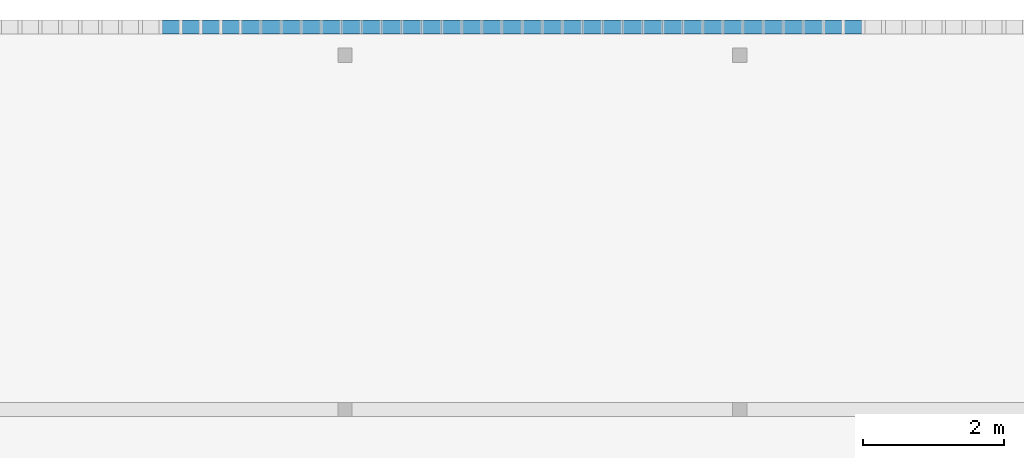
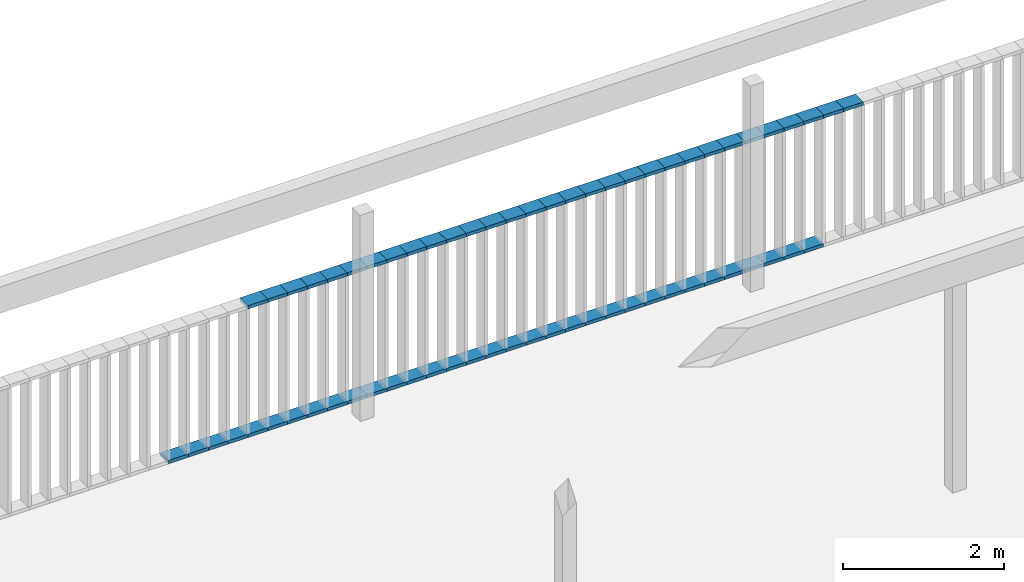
# One storey, part 53 of 240: 64 members, 1 element without a shape of its own.
"""IFC2X3 building model written with IfcOpenShell, lengths in centimetres."""

from ifc_helpers import new_model, entity, si_unit, converted_unit, derived_unit, direction, frame, origin, origin_2d_with_axis, place, context, subcontext, project, spatial, rectangle, extrude, source, transform, mapped, material, type_object, type_shapes, element, aggregate, save


model = new_model("IFC2X3")

# Units and contexts
model_context = context("Model", 3, precision=0.001, world=origin(), true_north=direction((6.12303176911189e-17, 1.0)))
body_context = subcontext(model_context, "Body", "Model", "MODEL_VIEW")
ifc_project = project(units=[si_unit("LENGTHUNIT", "METRE", prefix="CENTI"), si_unit("AREAUNIT", "SQUARE_METRE"), si_unit("VOLUMEUNIT", "CUBIC_METRE"), converted_unit("PLANEANGLEUNIT", "DEGREE", entity("IfcRatioMeasure", 0.0174532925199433), si_unit("PLANEANGLEUNIT", "RADIAN"), dimensions=[0, 0, 0, 0, 0, 0, 0]), si_unit("MASSUNIT", "GRAM", prefix="KILO"), derived_unit("MASSDENSITYUNIT", [(si_unit("MASSUNIT", "GRAM", prefix="KILO"), 1), (si_unit("LENGTHUNIT", "METRE"), -3)]), si_unit("TIMEUNIT", "SECOND"), si_unit("FREQUENCYUNIT", "HERTZ"), si_unit("THERMODYNAMICTEMPERATUREUNIT", "DEGREE_CELSIUS"), derived_unit("THERMALTRANSMITTANCEUNIT", [(si_unit("MASSUNIT", "GRAM", prefix="KILO"), 1), (si_unit("THERMODYNAMICTEMPERATUREUNIT", "KELVIN"), -1), (si_unit("TIMEUNIT", "SECOND"), -3)]), derived_unit("VOLUMETRICFLOWRATEUNIT", [(si_unit("LENGTHUNIT", "METRE"), 3), (si_unit("TIMEUNIT", "SECOND"), -1)]), si_unit("ELECTRICCURRENTUNIT", "AMPERE"), si_unit("ELECTRICVOLTAGEUNIT", "VOLT"), si_unit("POWERUNIT", "WATT"), si_unit("FORCEUNIT", "NEWTON", prefix="KILO"), si_unit("ILLUMINANCEUNIT", "LUX"), si_unit("LUMINOUSFLUXUNIT", "LUMEN"), si_unit("LUMINOUSINTENSITYUNIT", "CANDELA"), derived_unit("USERDEFINED", [(si_unit("MASSUNIT", "GRAM", prefix="KILO"), -1), (si_unit("LENGTHUNIT", "METRE"), -2), (si_unit("TIMEUNIT", "SECOND"), 3), (si_unit("LUMINOUSFLUXUNIT", "LUMEN"), 1)]), derived_unit("LINEARVELOCITYUNIT", [(si_unit("LENGTHUNIT", "METRE"), 1), (si_unit("TIMEUNIT", "SECOND"), -1)]), si_unit("PRESSUREUNIT", "PASCAL"), derived_unit("USERDEFINED", [(si_unit("LENGTHUNIT", "METRE"), -2), (si_unit("MASSUNIT", "GRAM", prefix="KILO"), 1), (si_unit("TIMEUNIT", "SECOND"), -2)])], contexts=[model_context])

# Site, building, storey
site_placement = place(None, frame((-2781.94577612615, 7442.24238424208, 0.0)))
site = spatial("IfcSite", under=ifc_project, at=site_placement, Name="Default", CompositionType="ELEMENT")
building_placement = place(site_placement, origin())
building = spatial("IfcBuilding", under=site, at=building_placement, CompositionType="ELEMENT")
storey_placement = place(building_placement, origin())
storey = spatial("IfcBuildingStorey", under=building, at=storey_placement, Name="N00 - COO", CompositionType="ELEMENT", Elevation=0.0)

# Curtain wall, members
curtain_wall_type = type_object("IfcCurtainWallType", Name="Mur-rideau:SR-Clôture", PredefinedType="NOTDEFINED")
curtain_wall_placement = place(building_placement, origin())
curtain_wall = element("IfcCurtainWall", 1, at=curtain_wall_placement, inside=storey, type_object=curtain_wall_type, Name="Mur-rideau:SR-Clôture", ObjectType="Mur-rideau:SR-Clôture")
ifc_material = material(Name="Aluminium")
member_type_1 = type_object("IfcMemberType", Name="Epine nord (200x50 mm)", PredefinedType="MEMBER")
shared_shape_1 = source(origin(), body_context, "Body", "SweptSolid", [
    extrude(rectangle(XDim=20.0, YDim=5.0, at=origin_2d_with_axis()), frame((-2.5, 0.0, -28.5000000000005), z_axis=(0.0, 0.0, 1.0), x_axis=(0.0, -1.0, 0.0)), (0.0, 0.0, 1.0), 28.5000000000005),
])
type_shapes(member_type_1, [shared_shape_1])
member_1_placement = place(building_placement, frame((-2629.49987965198, 40.0, 200.0), z_axis=(1.0, 0.0, 0.0), x_axis=(0.0, 0.0, 1.0)))
member_1 = element("IfcMember", 2, at=member_1_placement, type_object=member_type_1, material=ifc_material, Name="Meneau rectangulaire:Epine nord (200x50 mm)", ObjectType="Meneau rectangulaire:Epine nord (200x50 mm)", context=body_context, shape_type="MappedRepresentation", body=[
    mapped(shared_shape_1, transform((0.0, 0.0, 0.0), scale=1.0)),
])
member_2_placement = place(building_placement, frame((-2600.99987965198, 40.0, 200.0), z_axis=(1.0, 0.0, 0.0), x_axis=(0.0, 0.0, 1.0)))
member_2 = element("IfcMember", 3, at=member_2_placement, type_object=member_type_1, material=ifc_material, Name="Meneau rectangulaire:Epine nord (200x50 mm)", ObjectType="Meneau rectangulaire:Epine nord (200x50 mm)", context=body_context, shape_type="MappedRepresentation", body=[
    mapped(shared_shape_1, transform((0.0, 0.0, 0.0), scale=1.0)),
])
member_3_placement = place(building_placement, frame((-2572.49987965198, 40.0, 200.0), z_axis=(1.0, 0.0, 0.0), x_axis=(0.0, 0.0, 1.0)))
member_3 = element("IfcMember", 4, at=member_3_placement, type_object=member_type_1, material=ifc_material, Name="Meneau rectangulaire:Epine nord (200x50 mm)", ObjectType="Meneau rectangulaire:Epine nord (200x50 mm)", context=body_context, shape_type="MappedRepresentation", body=[
    mapped(shared_shape_1, transform((0.0, 0.0, 0.0), scale=1.0)),
])
member_4_placement = place(building_placement, frame((-2543.99987965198, 40.0, 200.0), z_axis=(1.0, 0.0, 0.0), x_axis=(0.0, 0.0, 1.0)))
member_4 = element("IfcMember", 5, at=member_4_placement, type_object=member_type_1, material=ifc_material, Name="Meneau rectangulaire:Epine nord (200x50 mm)", ObjectType="Meneau rectangulaire:Epine nord (200x50 mm)", context=body_context, shape_type="MappedRepresentation", body=[
    mapped(shared_shape_1, transform((0.0, 0.0, 0.0), scale=1.0)),
])
member_5_placement = place(building_placement, frame((-2515.49987965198, 40.0, 200.0), z_axis=(1.0, 0.0, 0.0), x_axis=(0.0, 0.0, 1.0)))
member_5 = element("IfcMember", 6, at=member_5_placement, type_object=member_type_1, material=ifc_material, Name="Meneau rectangulaire:Epine nord (200x50 mm)", ObjectType="Meneau rectangulaire:Epine nord (200x50 mm)", context=body_context, shape_type="MappedRepresentation", body=[
    mapped(shared_shape_1, transform((0.0, 0.0, 0.0), scale=1.0)),
])
member_6_placement = place(building_placement, frame((-2486.99987965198, 40.0, 200.0), z_axis=(1.0, 0.0, 0.0), x_axis=(0.0, 0.0, 1.0)))
member_6 = element("IfcMember", 7, at=member_6_placement, type_object=member_type_1, material=ifc_material, Name="Meneau rectangulaire:Epine nord (200x50 mm)", ObjectType="Meneau rectangulaire:Epine nord (200x50 mm)", context=body_context, shape_type="MappedRepresentation", body=[
    mapped(shared_shape_1, transform((0.0, 0.0, 0.0), scale=1.0)),
])
member_7_placement = place(building_placement, frame((-2458.49987965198, 40.0, 200.0), z_axis=(1.0, 0.0, 0.0), x_axis=(0.0, 0.0, 1.0)))
member_7 = element("IfcMember", 8, at=member_7_placement, type_object=member_type_1, material=ifc_material, Name="Meneau rectangulaire:Epine nord (200x50 mm)", ObjectType="Meneau rectangulaire:Epine nord (200x50 mm)", context=body_context, shape_type="MappedRepresentation", body=[
    mapped(shared_shape_1, transform((0.0, 0.0, 0.0), scale=1.0)),
])
member_8_placement = place(building_placement, frame((-2429.99987965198, 40.0, 200.0), z_axis=(1.0, 0.0, 0.0), x_axis=(0.0, 0.0, 1.0)))
member_8 = element("IfcMember", 9, at=member_8_placement, type_object=member_type_1, material=ifc_material, Name="Meneau rectangulaire:Epine nord (200x50 mm)", ObjectType="Meneau rectangulaire:Epine nord (200x50 mm)", context=body_context, shape_type="MappedRepresentation", body=[
    mapped(shared_shape_1, transform((0.0, 0.0, 0.0), scale=1.0)),
])
member_9_placement = place(building_placement, frame((-2401.49987965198, 40.0, 200.0), z_axis=(1.0, 0.0, 0.0), x_axis=(0.0, 0.0, 1.0)))
member_9 = element("IfcMember", 10, at=member_9_placement, type_object=member_type_1, material=ifc_material, Name="Meneau rectangulaire:Epine nord (200x50 mm)", ObjectType="Meneau rectangulaire:Epine nord (200x50 mm)", context=body_context, shape_type="MappedRepresentation", body=[
    mapped(shared_shape_1, transform((0.0, 0.0, 0.0), scale=1.0)),
])
member_10_placement = place(building_placement, frame((-2372.99987965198, 40.0, 200.0), z_axis=(1.0, 0.0, 0.0), x_axis=(0.0, 0.0, 1.0)))
member_10 = element("IfcMember", 11, at=member_10_placement, type_object=member_type_1, material=ifc_material, Name="Meneau rectangulaire:Epine nord (200x50 mm)", ObjectType="Meneau rectangulaire:Epine nord (200x50 mm)", context=body_context, shape_type="MappedRepresentation", body=[
    mapped(shared_shape_1, transform((0.0, 0.0, 0.0), scale=1.0)),
])
member_11_placement = place(building_placement, frame((-2344.49987965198, 40.0, 200.0), z_axis=(1.0, 0.0, 0.0), x_axis=(0.0, 0.0, 1.0)))
member_11 = element("IfcMember", 12, at=member_11_placement, type_object=member_type_1, material=ifc_material, Name="Meneau rectangulaire:Epine nord (200x50 mm)", ObjectType="Meneau rectangulaire:Epine nord (200x50 mm)", context=body_context, shape_type="MappedRepresentation", body=[
    mapped(shared_shape_1, transform((0.0, 0.0, 0.0), scale=1.0)),
])
member_12_placement = place(building_placement, frame((-2315.99987965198, 40.0, 200.0), z_axis=(1.0, 0.0, 0.0), x_axis=(0.0, 0.0, 1.0)))
member_12 = element("IfcMember", 13, at=member_12_placement, type_object=member_type_1, material=ifc_material, Name="Meneau rectangulaire:Epine nord (200x50 mm)", ObjectType="Meneau rectangulaire:Epine nord (200x50 mm)", context=body_context, shape_type="MappedRepresentation", body=[
    mapped(shared_shape_1, transform((0.0, 0.0, 0.0), scale=1.0)),
])
member_13_placement = place(building_placement, frame((-2287.49987965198, 40.0, 200.0), z_axis=(1.0, 0.0, 0.0), x_axis=(0.0, 0.0, 1.0)))
member_13 = element("IfcMember", 14, at=member_13_placement, type_object=member_type_1, material=ifc_material, Name="Meneau rectangulaire:Epine nord (200x50 mm)", ObjectType="Meneau rectangulaire:Epine nord (200x50 mm)", context=body_context, shape_type="MappedRepresentation", body=[
    mapped(shared_shape_1, transform((0.0, 0.0, 0.0), scale=1.0)),
])
member_14_placement = place(building_placement, frame((-2258.99987965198, 40.0, 200.0), z_axis=(1.0, 0.0, 0.0), x_axis=(0.0, 0.0, 1.0)))
member_14 = element("IfcMember", 15, at=member_14_placement, type_object=member_type_1, material=ifc_material, Name="Meneau rectangulaire:Epine nord (200x50 mm)", ObjectType="Meneau rectangulaire:Epine nord (200x50 mm)", context=body_context, shape_type="MappedRepresentation", body=[
    mapped(shared_shape_1, transform((0.0, 0.0, 0.0), scale=1.0)),
])
member_15_placement = place(building_placement, frame((-2230.49987965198, 40.0, 200.0), z_axis=(1.0, 0.0, 0.0), x_axis=(0.0, 0.0, 1.0)))
member_15 = element("IfcMember", 16, at=member_15_placement, type_object=member_type_1, material=ifc_material, Name="Meneau rectangulaire:Epine nord (200x50 mm)", ObjectType="Meneau rectangulaire:Epine nord (200x50 mm)", context=body_context, shape_type="MappedRepresentation", body=[
    mapped(shared_shape_1, transform((0.0, 0.0, 0.0), scale=1.0)),
])
member_16_placement = place(building_placement, frame((-2201.99987965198, 40.0, 200.0), z_axis=(1.0, 0.0, 0.0), x_axis=(0.0, 0.0, 1.0)))
member_16 = element("IfcMember", 17, at=member_16_placement, type_object=member_type_1, material=ifc_material, Name="Meneau rectangulaire:Epine nord (200x50 mm)", ObjectType="Meneau rectangulaire:Epine nord (200x50 mm)", context=body_context, shape_type="MappedRepresentation", body=[
    mapped(shared_shape_1, transform((0.0, 0.0, 0.0), scale=1.0)),
])
member_17_placement = place(building_placement, frame((-2173.49987965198, 40.0, 200.0), z_axis=(1.0, 0.0, 0.0), x_axis=(0.0, 0.0, 1.0)))
member_17 = element("IfcMember", 18, at=member_17_placement, type_object=member_type_1, material=ifc_material, Name="Meneau rectangulaire:Epine nord (200x50 mm)", ObjectType="Meneau rectangulaire:Epine nord (200x50 mm)", context=body_context, shape_type="MappedRepresentation", body=[
    mapped(shared_shape_1, transform((0.0, 0.0, 0.0), scale=1.0)),
])
member_18_placement = place(building_placement, frame((-2144.99987965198, 40.0, 200.0), z_axis=(1.0, 0.0, 0.0), x_axis=(0.0, 0.0, 1.0)))
member_18 = element("IfcMember", 19, at=member_18_placement, type_object=member_type_1, material=ifc_material, Name="Meneau rectangulaire:Epine nord (200x50 mm)", ObjectType="Meneau rectangulaire:Epine nord (200x50 mm)", context=body_context, shape_type="MappedRepresentation", body=[
    mapped(shared_shape_1, transform((0.0, 0.0, 0.0), scale=1.0)),
])
member_19_placement = place(building_placement, frame((-2116.49987965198, 40.0, 200.0), z_axis=(1.0, 0.0, 0.0), x_axis=(0.0, 0.0, 1.0)))
member_19 = element("IfcMember", 20, at=member_19_placement, type_object=member_type_1, material=ifc_material, Name="Meneau rectangulaire:Epine nord (200x50 mm)", ObjectType="Meneau rectangulaire:Epine nord (200x50 mm)", context=body_context, shape_type="MappedRepresentation", body=[
    mapped(shared_shape_1, transform((0.0, 0.0, 0.0), scale=1.0)),
])
member_20_placement = place(building_placement, frame((-2087.99987965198, 40.0, 200.0), z_axis=(1.0, 0.0, 0.0), x_axis=(0.0, 0.0, 1.0)))
member_20 = element("IfcMember", 21, at=member_20_placement, type_object=member_type_1, material=ifc_material, Name="Meneau rectangulaire:Epine nord (200x50 mm)", ObjectType="Meneau rectangulaire:Epine nord (200x50 mm)", context=body_context, shape_type="MappedRepresentation", body=[
    mapped(shared_shape_1, transform((0.0, 0.0, 0.0), scale=1.0)),
])
member_21_placement = place(building_placement, frame((-2059.49987965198, 40.0, 200.0), z_axis=(1.0, 0.0, 0.0), x_axis=(0.0, 0.0, 1.0)))
member_21 = element("IfcMember", 22, at=member_21_placement, type_object=member_type_1, material=ifc_material, Name="Meneau rectangulaire:Epine nord (200x50 mm)", ObjectType="Meneau rectangulaire:Epine nord (200x50 mm)", context=body_context, shape_type="MappedRepresentation", body=[
    mapped(shared_shape_1, transform((0.0, 0.0, 0.0), scale=1.0)),
])
member_22_placement = place(building_placement, frame((-2030.99987965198, 40.0, 200.0), z_axis=(1.0, 0.0, 0.0), x_axis=(0.0, 0.0, 1.0)))
member_22 = element("IfcMember", 23, at=member_22_placement, type_object=member_type_1, material=ifc_material, Name="Meneau rectangulaire:Epine nord (200x50 mm)", ObjectType="Meneau rectangulaire:Epine nord (200x50 mm)", context=body_context, shape_type="MappedRepresentation", body=[
    mapped(shared_shape_1, transform((0.0, 0.0, 0.0), scale=1.0)),
])
member_23_placement = place(building_placement, frame((-2002.49987965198, 40.0, 200.0), z_axis=(1.0, 0.0, 0.0), x_axis=(0.0, 0.0, 1.0)))
member_23 = element("IfcMember", 24, at=member_23_placement, type_object=member_type_1, material=ifc_material, Name="Meneau rectangulaire:Epine nord (200x50 mm)", ObjectType="Meneau rectangulaire:Epine nord (200x50 mm)", context=body_context, shape_type="MappedRepresentation", body=[
    mapped(shared_shape_1, transform((0.0, 0.0, 0.0), scale=1.0)),
])
member_24_placement = place(building_placement, frame((-1973.99987965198, 40.0, 200.0), z_axis=(1.0, 0.0, 0.0), x_axis=(0.0, 0.0, 1.0)))
member_24 = element("IfcMember", 25, at=member_24_placement, type_object=member_type_1, material=ifc_material, Name="Meneau rectangulaire:Epine nord (200x50 mm)", ObjectType="Meneau rectangulaire:Epine nord (200x50 mm)", context=body_context, shape_type="MappedRepresentation", body=[
    mapped(shared_shape_1, transform((0.0, 0.0, 0.0), scale=1.0)),
])
member_25_placement = place(building_placement, frame((-1945.49987965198, 40.0, 200.0), z_axis=(1.0, 0.0, 0.0), x_axis=(0.0, 0.0, 1.0)))
member_25 = element("IfcMember", 26, at=member_25_placement, type_object=member_type_1, material=ifc_material, Name="Meneau rectangulaire:Epine nord (200x50 mm)", ObjectType="Meneau rectangulaire:Epine nord (200x50 mm)", context=body_context, shape_type="MappedRepresentation", body=[
    mapped(shared_shape_1, transform((0.0, 0.0, 0.0), scale=1.0)),
])
member_26_placement = place(building_placement, frame((-1916.99987965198, 40.0, 200.0), z_axis=(1.0, 0.0, 0.0), x_axis=(0.0, 0.0, 1.0)))
member_26 = element("IfcMember", 27, at=member_26_placement, type_object=member_type_1, material=ifc_material, Name="Meneau rectangulaire:Epine nord (200x50 mm)", ObjectType="Meneau rectangulaire:Epine nord (200x50 mm)", context=body_context, shape_type="MappedRepresentation", body=[
    mapped(shared_shape_1, transform((0.0, 0.0, 0.0), scale=1.0)),
])
member_27_placement = place(building_placement, frame((-1888.49987965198, 40.0, 200.0), z_axis=(1.0, 0.0, 0.0), x_axis=(0.0, 0.0, 1.0)))
member_27 = element("IfcMember", 28, at=member_27_placement, type_object=member_type_1, material=ifc_material, Name="Meneau rectangulaire:Epine nord (200x50 mm)", ObjectType="Meneau rectangulaire:Epine nord (200x50 mm)", context=body_context, shape_type="MappedRepresentation", body=[
    mapped(shared_shape_1, transform((0.0, 0.0, 0.0), scale=1.0)),
])
member_28_placement = place(building_placement, frame((-1859.99987965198, 40.0, 200.0), z_axis=(1.0, 0.0, 0.0), x_axis=(0.0, 0.0, 1.0)))
member_28 = element("IfcMember", 29, at=member_28_placement, type_object=member_type_1, material=ifc_material, Name="Meneau rectangulaire:Epine nord (200x50 mm)", ObjectType="Meneau rectangulaire:Epine nord (200x50 mm)", context=body_context, shape_type="MappedRepresentation", body=[
    mapped(shared_shape_1, transform((0.0, 0.0, 0.0), scale=1.0)),
])
member_29_placement = place(building_placement, frame((-1831.49987965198, 40.0, 200.0), z_axis=(1.0, 0.0, 0.0), x_axis=(0.0, 0.0, 1.0)))
member_29 = element("IfcMember", 30, at=member_29_placement, type_object=member_type_1, material=ifc_material, Name="Meneau rectangulaire:Epine nord (200x50 mm)", ObjectType="Meneau rectangulaire:Epine nord (200x50 mm)", context=body_context, shape_type="MappedRepresentation", body=[
    mapped(shared_shape_1, transform((0.0, 0.0, 0.0), scale=1.0)),
])
member_30_placement = place(building_placement, frame((-1802.99987965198, 40.0, 200.0), z_axis=(1.0, 0.0, 0.0), x_axis=(0.0, 0.0, 1.0)))
member_30 = element("IfcMember", 31, at=member_30_placement, type_object=member_type_1, material=ifc_material, Name="Meneau rectangulaire:Epine nord (200x50 mm)", ObjectType="Meneau rectangulaire:Epine nord (200x50 mm)", context=body_context, shape_type="MappedRepresentation", body=[
    mapped(shared_shape_1, transform((0.0, 0.0, 0.0), scale=1.0)),
])
member_31_placement = place(building_placement, frame((-1774.49987965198, 40.0, 200.0), z_axis=(1.0, 0.0, 0.0), x_axis=(0.0, 0.0, 1.0)))
member_31 = element("IfcMember", 32, at=member_31_placement, type_object=member_type_1, material=ifc_material, Name="Meneau rectangulaire:Epine nord (200x50 mm)", ObjectType="Meneau rectangulaire:Epine nord (200x50 mm)", context=body_context, shape_type="MappedRepresentation", body=[
    mapped(shared_shape_1, transform((0.0, 0.0, 0.0), scale=1.0)),
])
member_type_2 = type_object("IfcMemberType", Name="Epine nord (200x50 mm)", PredefinedType="MEMBER")
shared_shape_2 = source(origin(), body_context, "Body", "SweptSolid", [
    extrude(rectangle(XDim=20.0, YDim=5.0, at=origin_2d_with_axis()), frame((-2.5, 0.0, -28.5000000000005), z_axis=(0.0, 0.0, 1.0), x_axis=(0.0, -1.0, 0.0)), (0.0, 0.0, 1.0), 28.5000000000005),
])
type_shapes(member_type_2, [shared_shape_2])
member_32_placement = place(building_placement, frame((-2771.99987965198, 40.0, 0.0), z_axis=(-1.0, 0.0, 0.0), x_axis=(0.0, 0.0, -1.0)))
member_32 = element("IfcMember", 33, at=member_32_placement, type_object=member_type_2, material=ifc_material, Name="Meneau rectangulaire:Epine nord (200x50 mm)", ObjectType="Meneau rectangulaire:Epine nord (200x50 mm)", context=body_context, shape_type="MappedRepresentation", body=[
    mapped(shared_shape_2, transform((0.0, 0.0, 0.0), scale=1.0)),
])
member_33_placement = place(building_placement, frame((-2743.49987965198, 40.0, 0.0), z_axis=(-1.0, 0.0, 0.0), x_axis=(0.0, 0.0, -1.0)))
member_33 = element("IfcMember", 34, at=member_33_placement, type_object=member_type_2, material=ifc_material, Name="Meneau rectangulaire:Epine nord (200x50 mm)", ObjectType="Meneau rectangulaire:Epine nord (200x50 mm)", context=body_context, shape_type="MappedRepresentation", body=[
    mapped(shared_shape_2, transform((0.0, 0.0, 0.0), scale=1.0)),
])
member_34_placement = place(building_placement, frame((-2714.99987965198, 40.0, 0.0), z_axis=(-1.0, 0.0, 0.0), x_axis=(0.0, 0.0, -1.0)))
member_34 = element("IfcMember", 35, at=member_34_placement, type_object=member_type_2, material=ifc_material, Name="Meneau rectangulaire:Epine nord (200x50 mm)", ObjectType="Meneau rectangulaire:Epine nord (200x50 mm)", context=body_context, shape_type="MappedRepresentation", body=[
    mapped(shared_shape_2, transform((0.0, 0.0, 0.0), scale=1.0)),
])
member_35_placement = place(building_placement, frame((-2686.49987965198, 40.0, 0.0), z_axis=(-1.0, 0.0, 0.0), x_axis=(0.0, 0.0, -1.0)))
member_35 = element("IfcMember", 36, at=member_35_placement, type_object=member_type_2, material=ifc_material, Name="Meneau rectangulaire:Epine nord (200x50 mm)", ObjectType="Meneau rectangulaire:Epine nord (200x50 mm)", context=body_context, shape_type="MappedRepresentation", body=[
    mapped(shared_shape_2, transform((0.0, 0.0, 0.0), scale=1.0)),
])
member_36_placement = place(building_placement, frame((-2657.99987965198, 40.0, 0.0), z_axis=(-1.0, 0.0, 0.0), x_axis=(0.0, 0.0, -1.0)))
member_36 = element("IfcMember", 37, at=member_36_placement, type_object=member_type_2, material=ifc_material, Name="Meneau rectangulaire:Epine nord (200x50 mm)", ObjectType="Meneau rectangulaire:Epine nord (200x50 mm)", context=body_context, shape_type="MappedRepresentation", body=[
    mapped(shared_shape_2, transform((0.0, 0.0, 0.0), scale=1.0)),
])
member_37_placement = place(building_placement, frame((-2629.49987965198, 40.0, 0.0), z_axis=(-1.0, 0.0, 0.0), x_axis=(0.0, 0.0, -1.0)))
member_37 = element("IfcMember", 38, at=member_37_placement, type_object=member_type_2, material=ifc_material, Name="Meneau rectangulaire:Epine nord (200x50 mm)", ObjectType="Meneau rectangulaire:Epine nord (200x50 mm)", context=body_context, shape_type="MappedRepresentation", body=[
    mapped(shared_shape_2, transform((0.0, 0.0, 0.0), scale=1.0)),
])
member_38_placement = place(building_placement, frame((-2600.99987965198, 40.0, 0.0), z_axis=(-1.0, 0.0, 0.0), x_axis=(0.0, 0.0, -1.0)))
member_38 = element("IfcMember", 39, at=member_38_placement, type_object=member_type_2, material=ifc_material, Name="Meneau rectangulaire:Epine nord (200x50 mm)", ObjectType="Meneau rectangulaire:Epine nord (200x50 mm)", context=body_context, shape_type="MappedRepresentation", body=[
    mapped(shared_shape_2, transform((0.0, 0.0, 0.0), scale=1.0)),
])
member_39_placement = place(building_placement, frame((-2572.49987965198, 40.0, 0.0), z_axis=(-1.0, 0.0, 0.0), x_axis=(0.0, 0.0, -1.0)))
member_39 = element("IfcMember", 40, at=member_39_placement, type_object=member_type_2, material=ifc_material, Name="Meneau rectangulaire:Epine nord (200x50 mm)", ObjectType="Meneau rectangulaire:Epine nord (200x50 mm)", context=body_context, shape_type="MappedRepresentation", body=[
    mapped(shared_shape_2, transform((0.0, 0.0, 0.0), scale=1.0)),
])
member_40_placement = place(building_placement, frame((-2543.99987965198, 40.0, 0.0), z_axis=(-1.0, 0.0, 0.0), x_axis=(0.0, 0.0, -1.0)))
member_40 = element("IfcMember", 41, at=member_40_placement, type_object=member_type_2, material=ifc_material, Name="Meneau rectangulaire:Epine nord (200x50 mm)", ObjectType="Meneau rectangulaire:Epine nord (200x50 mm)", context=body_context, shape_type="MappedRepresentation", body=[
    mapped(shared_shape_2, transform((0.0, 0.0, 0.0), scale=1.0)),
])
member_41_placement = place(building_placement, frame((-2515.49987965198, 40.0, 0.0), z_axis=(-1.0, 0.0, 0.0), x_axis=(0.0, 0.0, -1.0)))
member_41 = element("IfcMember", 42, at=member_41_placement, type_object=member_type_2, material=ifc_material, Name="Meneau rectangulaire:Epine nord (200x50 mm)", ObjectType="Meneau rectangulaire:Epine nord (200x50 mm)", context=body_context, shape_type="MappedRepresentation", body=[
    mapped(shared_shape_2, transform((0.0, 0.0, 0.0), scale=1.0)),
])
member_42_placement = place(building_placement, frame((-2486.99987965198, 40.0, 0.0), z_axis=(-1.0, 0.0, 0.0), x_axis=(0.0, 0.0, -1.0)))
member_42 = element("IfcMember", 43, at=member_42_placement, type_object=member_type_2, material=ifc_material, Name="Meneau rectangulaire:Epine nord (200x50 mm)", ObjectType="Meneau rectangulaire:Epine nord (200x50 mm)", context=body_context, shape_type="MappedRepresentation", body=[
    mapped(shared_shape_2, transform((0.0, 0.0, 0.0), scale=1.0)),
])
member_43_placement = place(building_placement, frame((-2458.49987965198, 40.0, 0.0), z_axis=(-1.0, 0.0, 0.0), x_axis=(0.0, 0.0, -1.0)))
member_43 = element("IfcMember", 44, at=member_43_placement, type_object=member_type_2, material=ifc_material, Name="Meneau rectangulaire:Epine nord (200x50 mm)", ObjectType="Meneau rectangulaire:Epine nord (200x50 mm)", context=body_context, shape_type="MappedRepresentation", body=[
    mapped(shared_shape_2, transform((0.0, 0.0, 0.0), scale=1.0)),
])
member_44_placement = place(building_placement, frame((-2429.99987965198, 40.0, 0.0), z_axis=(-1.0, 0.0, 0.0), x_axis=(0.0, 0.0, -1.0)))
member_44 = element("IfcMember", 45, at=member_44_placement, type_object=member_type_2, material=ifc_material, Name="Meneau rectangulaire:Epine nord (200x50 mm)", ObjectType="Meneau rectangulaire:Epine nord (200x50 mm)", context=body_context, shape_type="MappedRepresentation", body=[
    mapped(shared_shape_2, transform((0.0, 0.0, 0.0), scale=1.0)),
])
member_45_placement = place(building_placement, frame((-2401.49987965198, 40.0, 0.0), z_axis=(-1.0, 0.0, 0.0), x_axis=(0.0, 0.0, -1.0)))
member_45 = element("IfcMember", 46, at=member_45_placement, type_object=member_type_2, material=ifc_material, Name="Meneau rectangulaire:Epine nord (200x50 mm)", ObjectType="Meneau rectangulaire:Epine nord (200x50 mm)", context=body_context, shape_type="MappedRepresentation", body=[
    mapped(shared_shape_2, transform((0.0, 0.0, 0.0), scale=1.0)),
])
member_46_placement = place(building_placement, frame((-2372.99987965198, 40.0, 0.0), z_axis=(-1.0, 0.0, 0.0), x_axis=(0.0, 0.0, -1.0)))
member_46 = element("IfcMember", 47, at=member_46_placement, type_object=member_type_2, material=ifc_material, Name="Meneau rectangulaire:Epine nord (200x50 mm)", ObjectType="Meneau rectangulaire:Epine nord (200x50 mm)", context=body_context, shape_type="MappedRepresentation", body=[
    mapped(shared_shape_2, transform((0.0, 0.0, 0.0), scale=1.0)),
])
member_47_placement = place(building_placement, frame((-2344.49987965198, 40.0, 0.0), z_axis=(-1.0, 0.0, 0.0), x_axis=(0.0, 0.0, -1.0)))
member_47 = element("IfcMember", 48, at=member_47_placement, type_object=member_type_2, material=ifc_material, Name="Meneau rectangulaire:Epine nord (200x50 mm)", ObjectType="Meneau rectangulaire:Epine nord (200x50 mm)", context=body_context, shape_type="MappedRepresentation", body=[
    mapped(shared_shape_2, transform((0.0, 0.0, 0.0), scale=1.0)),
])
member_48_placement = place(building_placement, frame((-2315.99987965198, 40.0, 0.0), z_axis=(-1.0, 0.0, 0.0), x_axis=(0.0, 0.0, -1.0)))
member_48 = element("IfcMember", 49, at=member_48_placement, type_object=member_type_2, material=ifc_material, Name="Meneau rectangulaire:Epine nord (200x50 mm)", ObjectType="Meneau rectangulaire:Epine nord (200x50 mm)", context=body_context, shape_type="MappedRepresentation", body=[
    mapped(shared_shape_2, transform((0.0, 0.0, 0.0), scale=1.0)),
])
member_49_placement = place(building_placement, frame((-2287.49987965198, 40.0, 0.0), z_axis=(-1.0, 0.0, 0.0), x_axis=(0.0, 0.0, -1.0)))
member_49 = element("IfcMember", 50, at=member_49_placement, type_object=member_type_2, material=ifc_material, Name="Meneau rectangulaire:Epine nord (200x50 mm)", ObjectType="Meneau rectangulaire:Epine nord (200x50 mm)", context=body_context, shape_type="MappedRepresentation", body=[
    mapped(shared_shape_2, transform((0.0, 0.0, 0.0), scale=1.0)),
])
member_50_placement = place(building_placement, frame((-2258.99987965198, 40.0, 0.0), z_axis=(-1.0, 0.0, 0.0), x_axis=(0.0, 0.0, -1.0)))
member_50 = element("IfcMember", 51, at=member_50_placement, type_object=member_type_2, material=ifc_material, Name="Meneau rectangulaire:Epine nord (200x50 mm)", ObjectType="Meneau rectangulaire:Epine nord (200x50 mm)", context=body_context, shape_type="MappedRepresentation", body=[
    mapped(shared_shape_2, transform((0.0, 0.0, 0.0), scale=1.0)),
])
member_51_placement = place(building_placement, frame((-2230.49987965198, 40.0, 0.0), z_axis=(-1.0, 0.0, 0.0), x_axis=(0.0, 0.0, -1.0)))
member_51 = element("IfcMember", 52, at=member_51_placement, type_object=member_type_2, material=ifc_material, Name="Meneau rectangulaire:Epine nord (200x50 mm)", ObjectType="Meneau rectangulaire:Epine nord (200x50 mm)", context=body_context, shape_type="MappedRepresentation", body=[
    mapped(shared_shape_2, transform((0.0, 0.0, 0.0), scale=1.0)),
])
member_52_placement = place(building_placement, frame((-2201.99987965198, 40.0, 0.0), z_axis=(-1.0, 0.0, 0.0), x_axis=(0.0, 0.0, -1.0)))
member_52 = element("IfcMember", 53, at=member_52_placement, type_object=member_type_2, material=ifc_material, Name="Meneau rectangulaire:Epine nord (200x50 mm)", ObjectType="Meneau rectangulaire:Epine nord (200x50 mm)", context=body_context, shape_type="MappedRepresentation", body=[
    mapped(shared_shape_2, transform((0.0, 0.0, 0.0), scale=1.0)),
])
member_53_placement = place(building_placement, frame((-2173.49987965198, 40.0, 0.0), z_axis=(-1.0, 0.0, 0.0), x_axis=(0.0, 0.0, -1.0)))
member_53 = element("IfcMember", 54, at=member_53_placement, type_object=member_type_2, material=ifc_material, Name="Meneau rectangulaire:Epine nord (200x50 mm)", ObjectType="Meneau rectangulaire:Epine nord (200x50 mm)", context=body_context, shape_type="MappedRepresentation", body=[
    mapped(shared_shape_2, transform((0.0, 0.0, 0.0), scale=1.0)),
])
member_54_placement = place(building_placement, frame((-2144.99987965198, 40.0, 0.0), z_axis=(-1.0, 0.0, 0.0), x_axis=(0.0, 0.0, -1.0)))
member_54 = element("IfcMember", 55, at=member_54_placement, type_object=member_type_2, material=ifc_material, Name="Meneau rectangulaire:Epine nord (200x50 mm)", ObjectType="Meneau rectangulaire:Epine nord (200x50 mm)", context=body_context, shape_type="MappedRepresentation", body=[
    mapped(shared_shape_2, transform((0.0, 0.0, 0.0), scale=1.0)),
])
member_55_placement = place(building_placement, frame((-2116.49987965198, 40.0, 0.0), z_axis=(-1.0, 0.0, 0.0), x_axis=(0.0, 0.0, -1.0)))
member_55 = element("IfcMember", 56, at=member_55_placement, type_object=member_type_2, material=ifc_material, Name="Meneau rectangulaire:Epine nord (200x50 mm)", ObjectType="Meneau rectangulaire:Epine nord (200x50 mm)", context=body_context, shape_type="MappedRepresentation", body=[
    mapped(shared_shape_2, transform((0.0, 0.0, 0.0), scale=1.0)),
])
member_56_placement = place(building_placement, frame((-2087.99987965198, 40.0, 0.0), z_axis=(-1.0, 0.0, 0.0), x_axis=(0.0, 0.0, -1.0)))
member_56 = element("IfcMember", 57, at=member_56_placement, type_object=member_type_2, material=ifc_material, Name="Meneau rectangulaire:Epine nord (200x50 mm)", ObjectType="Meneau rectangulaire:Epine nord (200x50 mm)", context=body_context, shape_type="MappedRepresentation", body=[
    mapped(shared_shape_2, transform((0.0, 0.0, 0.0), scale=1.0)),
])
member_57_placement = place(building_placement, frame((-2059.49987965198, 40.0, 0.0), z_axis=(-1.0, 0.0, 0.0), x_axis=(0.0, 0.0, -1.0)))
member_57 = element("IfcMember", 58, at=member_57_placement, type_object=member_type_2, material=ifc_material, Name="Meneau rectangulaire:Epine nord (200x50 mm)", ObjectType="Meneau rectangulaire:Epine nord (200x50 mm)", context=body_context, shape_type="MappedRepresentation", body=[
    mapped(shared_shape_2, transform((0.0, 0.0, 0.0), scale=1.0)),
])
member_58_placement = place(building_placement, frame((-2030.99987965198, 40.0, 0.0), z_axis=(-1.0, 0.0, 0.0), x_axis=(0.0, 0.0, -1.0)))
member_58 = element("IfcMember", 59, at=member_58_placement, type_object=member_type_2, material=ifc_material, Name="Meneau rectangulaire:Epine nord (200x50 mm)", ObjectType="Meneau rectangulaire:Epine nord (200x50 mm)", context=body_context, shape_type="MappedRepresentation", body=[
    mapped(shared_shape_2, transform((0.0, 0.0, 0.0), scale=1.0)),
])
member_59_placement = place(building_placement, frame((-2002.49987965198, 40.0, 0.0), z_axis=(-1.0, 0.0, 0.0), x_axis=(0.0, 0.0, -1.0)))
member_59 = element("IfcMember", 60, at=member_59_placement, type_object=member_type_2, material=ifc_material, Name="Meneau rectangulaire:Epine nord (200x50 mm)", ObjectType="Meneau rectangulaire:Epine nord (200x50 mm)", context=body_context, shape_type="MappedRepresentation", body=[
    mapped(shared_shape_2, transform((0.0, 0.0, 0.0), scale=1.0)),
])
member_60_placement = place(building_placement, frame((-1973.99987965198, 40.0, 0.0), z_axis=(-1.0, 0.0, 0.0), x_axis=(0.0, 0.0, -1.0)))
member_60 = element("IfcMember", 61, at=member_60_placement, type_object=member_type_2, material=ifc_material, Name="Meneau rectangulaire:Epine nord (200x50 mm)", ObjectType="Meneau rectangulaire:Epine nord (200x50 mm)", context=body_context, shape_type="MappedRepresentation", body=[
    mapped(shared_shape_2, transform((0.0, 0.0, 0.0), scale=1.0)),
])
member_61_placement = place(building_placement, frame((-1945.49987965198, 40.0, 0.0), z_axis=(-1.0, 0.0, 0.0), x_axis=(0.0, 0.0, -1.0)))
member_61 = element("IfcMember", 62, at=member_61_placement, type_object=member_type_2, material=ifc_material, Name="Meneau rectangulaire:Epine nord (200x50 mm)", ObjectType="Meneau rectangulaire:Epine nord (200x50 mm)", context=body_context, shape_type="MappedRepresentation", body=[
    mapped(shared_shape_2, transform((0.0, 0.0, 0.0), scale=1.0)),
])
member_62_placement = place(building_placement, frame((-1916.99987965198, 40.0, 0.0), z_axis=(-1.0, 0.0, 0.0), x_axis=(0.0, 0.0, -1.0)))
member_62 = element("IfcMember", 63, at=member_62_placement, type_object=member_type_2, material=ifc_material, Name="Meneau rectangulaire:Epine nord (200x50 mm)", ObjectType="Meneau rectangulaire:Epine nord (200x50 mm)", context=body_context, shape_type="MappedRepresentation", body=[
    mapped(shared_shape_2, transform((0.0, 0.0, 0.0), scale=1.0)),
])
member_63_placement = place(building_placement, frame((-1888.49987965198, 40.0, 0.0), z_axis=(-1.0, 0.0, 0.0), x_axis=(0.0, 0.0, -1.0)))
member_63 = element("IfcMember", 64, at=member_63_placement, type_object=member_type_2, material=ifc_material, Name="Meneau rectangulaire:Epine nord (200x50 mm)", ObjectType="Meneau rectangulaire:Epine nord (200x50 mm)", context=body_context, shape_type="MappedRepresentation", body=[
    mapped(shared_shape_2, transform((0.0, 0.0, 0.0), scale=1.0)),
])
member_64_placement = place(building_placement, frame((-1859.99987965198, 40.0, 0.0), z_axis=(-1.0, 0.0, 0.0), x_axis=(0.0, 0.0, -1.0)))
member_64 = element("IfcMember", 65, at=member_64_placement, type_object=member_type_2, material=ifc_material, Name="Meneau rectangulaire:Epine nord (200x50 mm)", ObjectType="Meneau rectangulaire:Epine nord (200x50 mm)", context=body_context, shape_type="MappedRepresentation", body=[
    mapped(shared_shape_2, transform((0.0, 0.0, 0.0), scale=1.0)),
])
aggregate(curtain_wall, [member_1, member_2, member_3, member_4, member_5, member_6, member_7, member_8, member_9, member_10, member_11, member_12, member_13, member_14, member_15, member_16, member_17, member_18, member_19, member_20, member_21, member_22, member_23, member_24, member_25, member_26, member_27, member_28, member_29, member_30, member_31, member_32, member_33, member_34, member_35, member_36, member_37, member_38, member_39, member_40, member_41, member_42, member_43, member_44, member_45, member_46, member_47, member_48, member_49, member_50, member_51, member_52, member_53, member_54, member_55, member_56, member_57, member_58, member_59, member_60, member_61, member_62, member_63, member_64])

save(model, "model.ifc")
